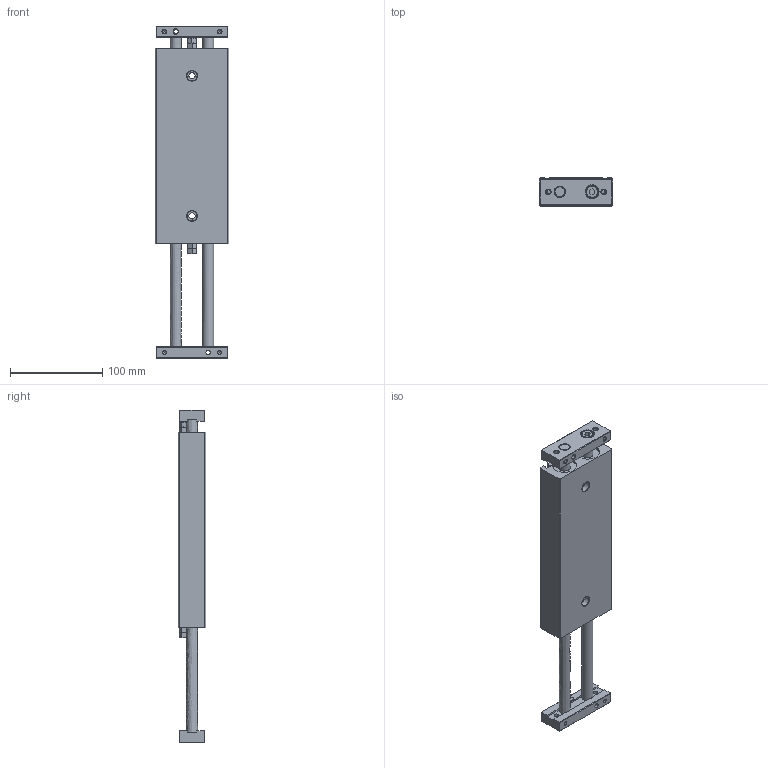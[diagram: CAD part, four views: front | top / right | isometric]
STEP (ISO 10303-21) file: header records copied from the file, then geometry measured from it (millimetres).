
FILE_DESCRIPTION((''),'2;1');
FILE_NAME('I:\3D電子目錄\氣缸\STX\STX\STX25\STX25x100.stp','2007-10-02T09:09:18',('Administrator'),(''),'Autodesk Inventor 11','Autodesk Inventor 11','');
FILE_SCHEMA(('AUTOMOTIVE_DESIGN { 1 0 10303 214 1 1 1 1 }'));
Length unit declared in the file: millimetre
Products named in the file (1): STX25
Bounding box: 80 x 30 x 360 mm (x, y, z)
Volume: 559782.5 mm3; surface area: 88786.1 mm2
Topology: 1 solids, 1 shells, 274 faces, 653 edges, 406 vertices
Faces by surface type: plane 127, cone 75, bspline 46, cylinder 22, torus 4
Full cylindrical faces by diameter (mm): 4.134 x4, 6 x2, 11 x2, 12 x4, 12.2 x2, 13 x2, 14 x2, 26 x2, 27.4 x2
Entity records: 8035 total; most frequent: CARTESIAN_POINT 2555, ORIENTED_EDGE 1058, DIRECTION 1056, EDGE_CURVE 529, EDGE_LOOP 420, AXIS2_PLACEMENT_3D 402, VERTEX_POINT 373, FACE_OUTER_BOUND 274
